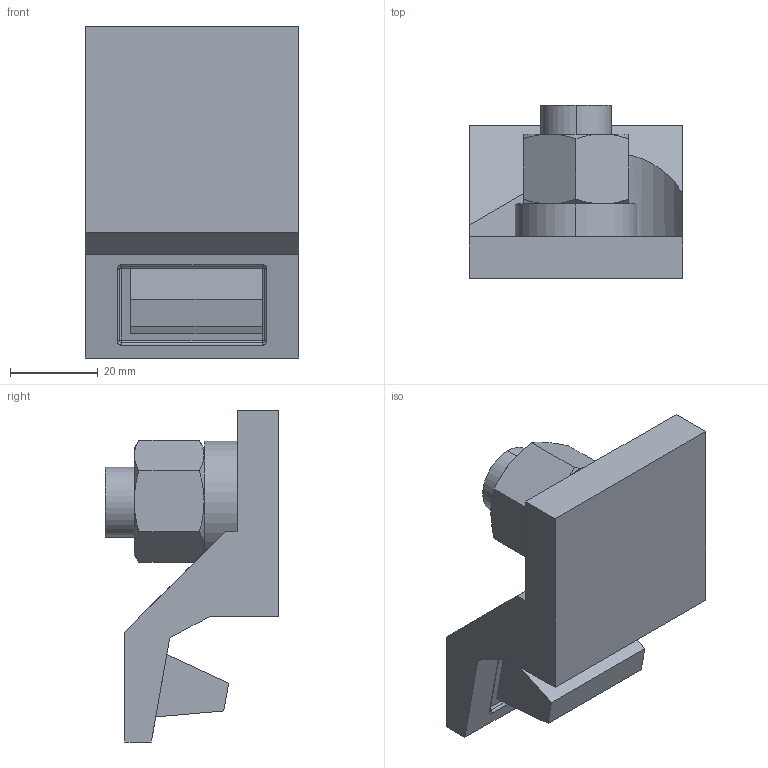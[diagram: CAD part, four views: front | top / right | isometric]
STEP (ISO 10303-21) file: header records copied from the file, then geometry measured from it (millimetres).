
FILE_DESCRIPTION (( 'STEP AP214' ), '1' );
FILE_NAME ('4116-10-35.STEP', '2020-10-14T09:40:48', ( '' ), ( '' ), 'SwSTEP 2.0', 'SolidWorks 2020', '' );
FILE_SCHEMA (( 'AUTOMOTIVE_DESIGN' ));
Length unit declared in the file: millimetre
Products named in the file (5): 4116-10-35; Washer m16; hex nut gradec_bsi_BS EN 24034 - M16 - N; DC4116-10-35 rev 1; 34mm Nose
Assembly tree (4 placements, depth 2):
  4116-10-35
    DC4116-10-35 rev 1
    Washer m16
    hex nut gradec_bsi_BS EN 24034 - M16 - N
    34mm Nose
Bounding box: 48.5 x 39.5 x 75.5 mm (x, y, z)
Volume: 59410.6 mm3; surface area: 20188.7 mm2
Topology: 4 solids, 4 shells, 304 faces, 765 edges, 490 vertices
Faces by surface type: plane 174, bspline 69, cylinder 32, cone 16, sphere 9, torus 4
Entity records: 13930 total; most frequent: CARTESIAN_POINT 7125, ORIENTED_EDGE 1514, DIRECTION 1080, EDGE_CURVE 757, VERTEX_POINT 488, LINE 430, VECTOR 430, EDGE_LOOP 335
